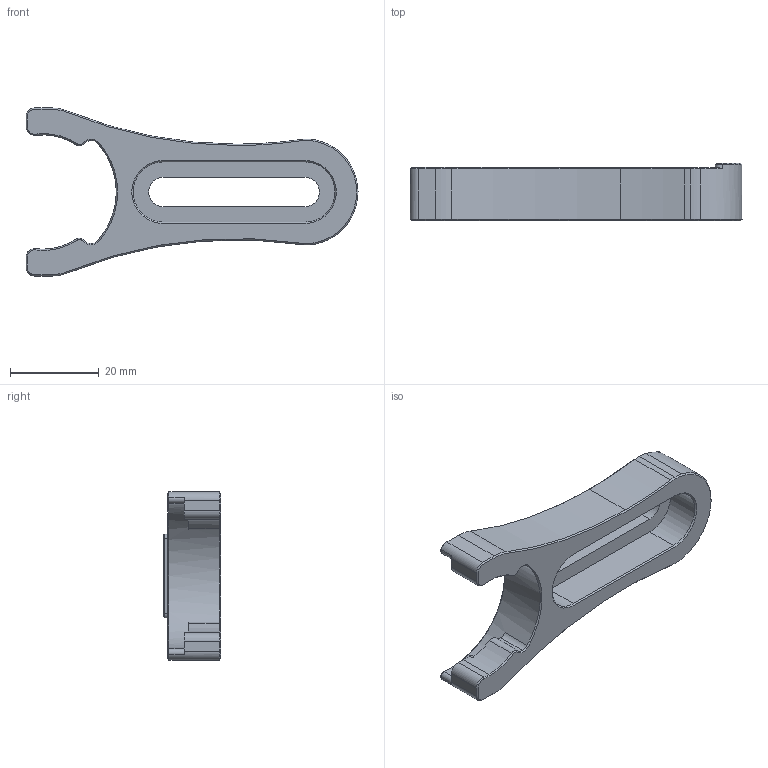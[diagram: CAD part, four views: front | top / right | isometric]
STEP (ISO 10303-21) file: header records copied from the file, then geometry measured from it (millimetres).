
FILE_DESCRIPTION (( 'STEP AP203' ), '1' );
FILE_NAME ('32mm.STEP', '2024-12-12T05:26:50', ( '' ), ( '' ), 'SwSTEP 2.0', 'SolidWorks 2024', '' );
FILE_SCHEMA (( 'CONFIG_CONTROL_DESIGN' ));
Length unit declared in the file: millimetre
Products named in the file (1): 32mm
Bounding box: 75 x 13 x 38 mm (x, y, z)
Volume: 11854.5 mm3; surface area: 6377.9 mm2
Topology: 1 solids, 1 shells, 120 faces, 296 edges, 179 vertices
Faces by surface type: cone 47, cylinder 39, plane 34
Entity records: 3628 total; most frequent: DIRECTION 673, CARTESIAN_POINT 611, ORIENTED_EDGE 592, EDGE_CURVE 296, AXIS2_PLACEMENT_3D 259, VERTEX_POINT 179, VECTOR 155, LINE 155
